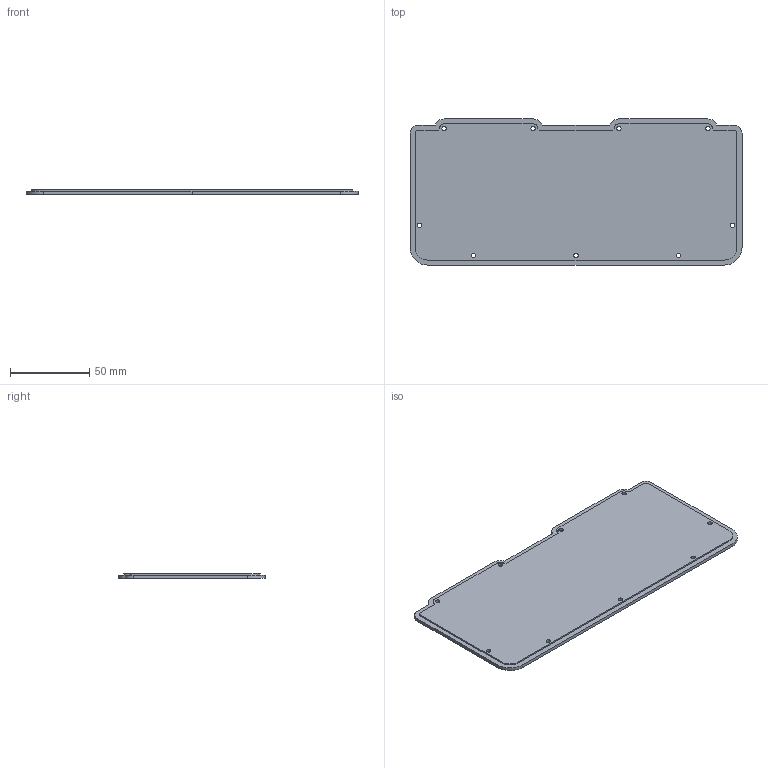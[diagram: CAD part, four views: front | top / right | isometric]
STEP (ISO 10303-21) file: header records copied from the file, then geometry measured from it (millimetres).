
FILE_DESCRIPTION(('FreeCAD Model'),'2;1');
FILE_NAME('Open CASCADE Shape Model','2023-08-22T14:16:17',('Author'),( ''),'Open CASCADE STEP processor 7.6','FreeCAD','Unknown');
FILE_SCHEMA(('AUTOMOTIVE_DESIGN { 1 0 10303 214 1 1 1 1 }'));
Length unit declared in the file: millimetre
Products named in the file (1): Крышка
Bounding box: 209 x 92 x 3 mm (x, y, z)
Volume: 54643.5 mm3; surface area: 39519.2 mm2
Topology: 1 solids, 1 shells, 65 faces, 177 edges, 115 vertices
Faces by surface type: plane 31, cylinder 25, cone 9
Full cylindrical faces by diameter (mm): 2.8 x9
Entity records: 4444 total; most frequent: CARTESIAN_POINT 766, DIRECTION 713, LINE 422, VECTOR 422, ORIENTED_EDGE 354, PCURVE 354, DEFINITIONAL_REPRESENTATION 354, EDGE_CURVE 177
